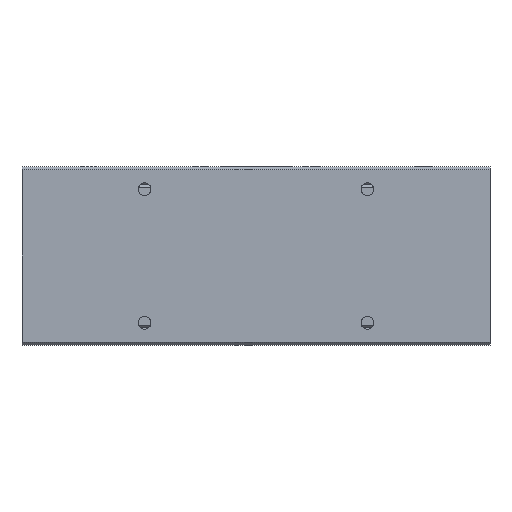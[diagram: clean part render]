
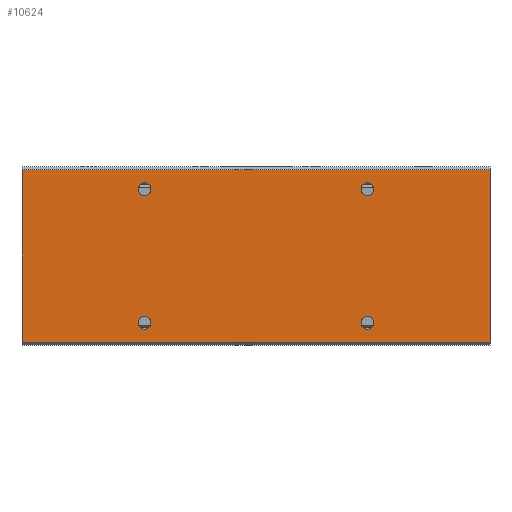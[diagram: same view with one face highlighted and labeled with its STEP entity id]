
A CAD part, front view. The second image highlights one B-rep face of the part: STEP entity #10624.
In plain terms, the highlighted planar face has unit normal (0, -1, 0).
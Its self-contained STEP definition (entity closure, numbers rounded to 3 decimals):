
#389=CIRCLE('',#11256,1.425);
#390=CIRCLE('',#11261,1.425);
#397=CIRCLE('',#11274,1.425);
#398=CIRCLE('',#11279,1.425);
#1533=ORIENTED_EDGE('',*,*,#4367,.F.);
#1534=ORIENTED_EDGE('',*,*,#4363,.F.);
#1535=ORIENTED_EDGE('',*,*,#4347,.F.);
#1536=ORIENTED_EDGE('',*,*,#4343,.F.);
#1537=ORIENTED_EDGE('',*,*,#4320,.T.);
#1538=ORIENTED_EDGE('',*,*,#4761,.F.);
#1539=ORIENTED_EDGE('',*,*,#4303,.F.);
#1540=ORIENTED_EDGE('',*,*,#4760,.T.);
#4303=EDGE_CURVE('',#5927,#5928,#7029,.T.);
#4320=EDGE_CURVE('',#5945,#5944,#7046,.T.);
#4343=EDGE_CURVE('',#5963,#5963,#389,.T.);
#4347=EDGE_CURVE('',#5966,#5966,#390,.T.);
#4363=EDGE_CURVE('',#5977,#5977,#397,.T.);
#4367=EDGE_CURVE('',#5980,#5980,#398,.T.);
#4760=EDGE_CURVE('',#5927,#5945,#7210,.T.);
#4761=EDGE_CURVE('',#5928,#5944,#7211,.T.);
#5927=VERTEX_POINT('',#16052);
#5928=VERTEX_POINT('',#16054);
#5944=VERTEX_POINT('',#16087);
#5945=VERTEX_POINT('',#16089);
#5963=VERTEX_POINT('',#16133);
#5966=VERTEX_POINT('',#16141);
#5977=VERTEX_POINT('',#16171);
#5980=VERTEX_POINT('',#16179);
#7029=LINE('',#16053,#7989);
#7046=LINE('',#16088,#8006);
#7210=LINE('',#16963,#8170);
#7211=LINE('',#16965,#8171);
#7989=VECTOR('',#12538,1000.);
#8006=VECTOR('',#12557,1000.);
#8170=VECTOR('',#13295,1000.);
#8171=VECTOR('',#13298,1000.);
#8979=EDGE_LOOP('',(#1533));
#8980=EDGE_LOOP('',(#1534));
#8981=EDGE_LOOP('',(#1535));
#8982=EDGE_LOOP('',(#1536));
#8983=EDGE_LOOP('',(#1537,#1538,#1539,#1540));
#9685=FACE_BOUND('',#8979,.T.);
#9686=FACE_BOUND('',#8980,.T.);
#9687=FACE_BOUND('',#8981,.T.);
#9688=FACE_BOUND('',#8982,.T.);
#9689=FACE_BOUND('',#8983,.T.);
#10354=PLANE('',#11538);
#10624=ADVANCED_FACE('',(#9685,#9686,#9687,#9688,#9689),#10354,.F.);
#11256=AXIS2_PLACEMENT_3D('',#16132,#12588,#12589);
#11261=AXIS2_PLACEMENT_3D('',#16140,#12598,#12599);
#11274=AXIS2_PLACEMENT_3D('',#16170,#12630,#12631);
#11279=AXIS2_PLACEMENT_3D('',#16178,#12640,#12641);
#11538=AXIS2_PLACEMENT_3D('',#16964,#13296,#13297);
#12538=DIRECTION('',(0.,0.,-1.));
#12557=DIRECTION('',(0.,0.,-1.));
#12588=DIRECTION('',(0.,-1.,0.));
#12589=DIRECTION('',(0.,0.,-1.));
#12598=DIRECTION('',(0.,-1.,0.));
#12599=DIRECTION('',(0.,0.,-1.));
#12630=DIRECTION('',(0.,-1.,0.));
#12631=DIRECTION('',(0.,0.,-1.));
#12640=DIRECTION('',(0.,-1.,0.));
#12641=DIRECTION('',(0.,0.,-1.));
#13295=DIRECTION('',(-1.,0.,0.));
#13296=DIRECTION('',(0.,1.,0.));
#13297=DIRECTION('',(0.,0.,1.));
#13298=DIRECTION('',(-1.,0.,0.));
#16052=CARTESIAN_POINT('',(105.,0.,19.4));
#16053=CARTESIAN_POINT('',(105.,0.,19.4));
#16054=CARTESIAN_POINT('',(105.,0.,-19.4));
#16087=CARTESIAN_POINT('',(0.,0.,-19.4));
#16088=CARTESIAN_POINT('',(0.,0.,19.4));
#16089=CARTESIAN_POINT('',(0.,0.,19.4));
#16132=CARTESIAN_POINT('',(27.5,0.,-15.));
#16133=CARTESIAN_POINT('',(27.5,0.,-16.425));
#16140=CARTESIAN_POINT('',(77.5,0.,-15.));
#16141=CARTESIAN_POINT('',(77.5,0.,-16.425));
#16170=CARTESIAN_POINT('',(27.5,0.,15.));
#16171=CARTESIAN_POINT('',(27.5,0.,13.575));
#16178=CARTESIAN_POINT('',(77.5,0.,15.));
#16179=CARTESIAN_POINT('',(77.5,0.,13.575));
#16963=CARTESIAN_POINT('',(105.,0.,19.4));
#16964=CARTESIAN_POINT('',(105.,0.,19.4));
#16965=CARTESIAN_POINT('',(105.,0.,-19.4));
